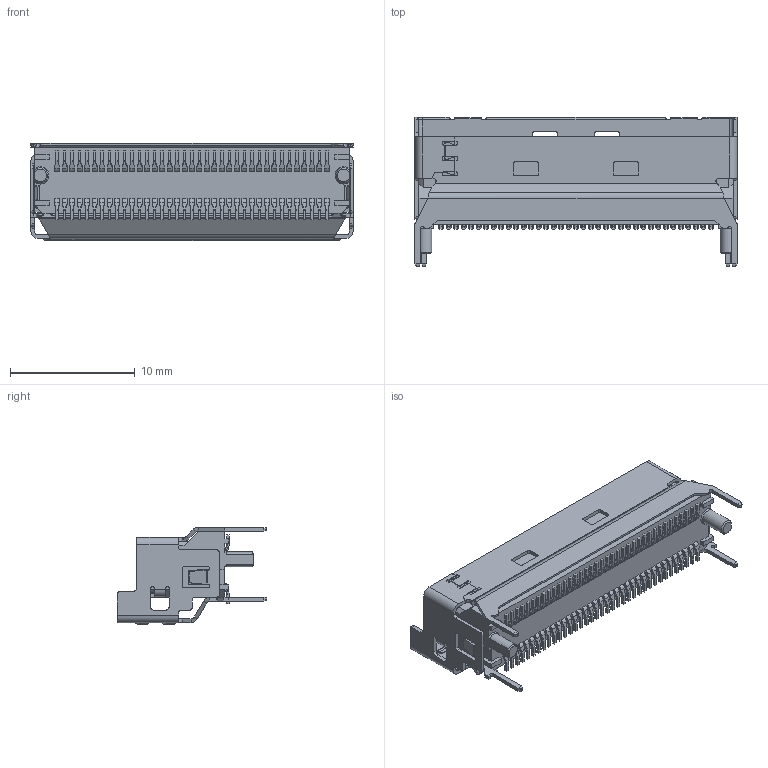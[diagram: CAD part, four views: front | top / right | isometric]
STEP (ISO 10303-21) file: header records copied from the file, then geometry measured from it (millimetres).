
FILE_DESCRIPTION((''),'2;1');
FILE_NAME('PRT0013','2024-05-18T14:40:26',('ZL'),(''),'CREO PARAMETRIC BY PTC INC, 2020053','CREO PARAMETRIC BY PTC INC, 2020053','');
FILE_SCHEMA(('AUTOMOTIVE_DESIGN { 1 0 10303 214 1 1 1 1 }'));
Products named in the file (1): PRT0013
Bounding box: 25.8 x 11.95 x 7.77 mm (x, y, z)
Volume: 786.5 mm3; surface area: 2083.3 mm2
Topology: 1 solids, 1 shells, 4712 faces, 12331 edges, 7692 vertices
Faces by surface type: plane 2706, cylinder 1666, bspline 169, torus 160, cone 11
Entity records: 182677 total; most frequent: CARTESIAN_POINT 33107, ORIENTED_EDGE 24662, DIRECTION 24089, EDGE_CURVE 12331, VECTOR 8284, LINE 8284, AXIS2_PLACEMENT_3D 7901, VERTEX_POINT 7692
